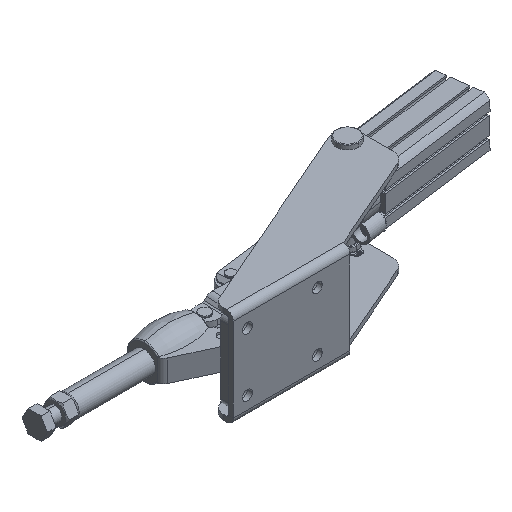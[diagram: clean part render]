
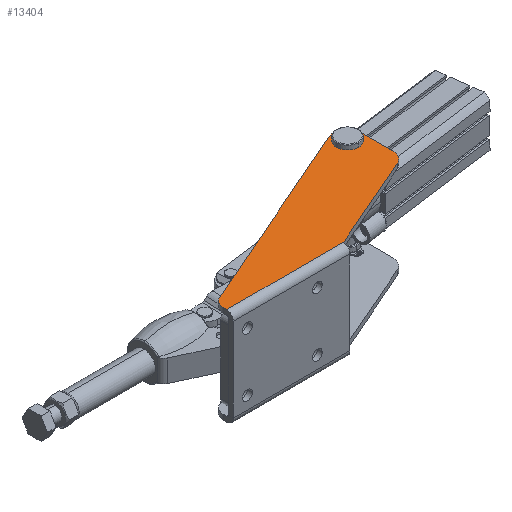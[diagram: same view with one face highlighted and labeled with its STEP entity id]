
A CAD part, isometric view. The second image highlights one B-rep face of the part: STEP entity #13404.
In plain terms, the highlighted planar face has unit normal (0, 0, 1) as drawn and (1, 0, 0) by its records, which use the part's own axes.
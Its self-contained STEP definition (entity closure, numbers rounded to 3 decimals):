
#1003 = VERTEX_POINT ( 'NONE', #14468 ) ;
#1046 = DIRECTION ( 'NONE',  ( 1., 0., 0. ) ) ;
#1337 = ORIENTED_EDGE ( 'NONE', *, *, #2311, .T. ) ;
#1351 = VECTOR ( 'NONE', #19124, 1000. ) ;
#1422 = VERTEX_POINT ( 'NONE', #36659 ) ;
#1479 = AXIS2_PLACEMENT_3D ( 'NONE', #17172, #2650, #23031 ) ;
#1649 = EDGE_CURVE ( 'NONE', #1422, #1003, #29986, .T. ) ;
#2311 = EDGE_CURVE ( 'NONE', #7331, #7093, #17248, .T. ) ;
#2650 = DIRECTION ( 'NONE',  ( -1., 0., 0. ) ) ;
#2667 = AXIS2_PLACEMENT_3D ( 'NONE', #18503, #1046, #21450 ) ;
#2842 = EDGE_CURVE ( 'NONE', #32389, #1422, #35433, .T. ) ;
#2941 = EDGE_LOOP ( 'NONE', ( #1337, #29685 ) ) ;
#3912 = ORIENTED_EDGE ( 'NONE', *, *, #7779, .T. ) ;
#3957 = ORIENTED_EDGE ( 'NONE', *, *, #23930, .F. ) ;
#4003 = ORIENTED_EDGE ( 'NONE', *, *, #35117, .T. ) ;
#5040 = CARTESIAN_POINT ( 'NONE',  ( 41.75, 75.056, -189.158 ) ) ;
#5607 = EDGE_CURVE ( 'NONE', #1003, #13996, #17918, .T. ) ;
#5687 = DIRECTION ( 'NONE',  ( -1., 0., 0. ) ) ;
#6043 = AXIS2_PLACEMENT_3D ( 'NONE', #23180, #5687, #26075 ) ;
#6287 = EDGE_CURVE ( 'NONE', #28627, #17387, #26528, .T. ) ;
#6904 = CARTESIAN_POINT ( 'NONE',  ( 41.75, 37.065, -181.95 ) ) ;
#7084 = VERTEX_POINT ( 'NONE', #10133 ) ;
#7093 = VERTEX_POINT ( 'NONE', #19063 ) ;
#7331 = VERTEX_POINT ( 'NONE', #8475 ) ;
#7779 = EDGE_CURVE ( 'NONE', #17387, #26273, #28773, .T. ) ;
#8475 = CARTESIAN_POINT ( 'NONE',  ( 41.75, 75.056, -169.158 ) ) ;
#9000 = ORIENTED_EDGE ( 'NONE', *, *, #29299, .F. ) ;
#9850 = DIRECTION ( 'NONE',  ( 0., 0.399, -0.917 ) ) ;
#10130 = VECTOR ( 'NONE', #25863, 1000. ) ;
#10132 = ORIENTED_EDGE ( 'NONE', *, *, #35248, .T. ) ;
#10133 = CARTESIAN_POINT ( 'NONE',  ( 41.75, 4.431, 0. ) ) ;
#10261 = FACE_OUTER_BOUND ( 'NONE', #17217, .T. ) ;
#10580 = EDGE_CURVE ( 'NONE', #7093, #7331, #11351, .T. ) ;
#10971 = CARTESIAN_POINT ( 'NONE',  ( 41.75, 13.599, -6.007 ) ) ;
#11091 = CARTESIAN_POINT ( 'NONE',  ( 41.75, 75.056, -177.158 ) ) ;
#11275 = AXIS2_PLACEMENT_3D ( 'NONE', #14749, #35118, #17708 ) ;
#11321 = DIRECTION ( 'NONE',  ( -1., 0., 0. ) ) ;
#11351 = CIRCLE ( 'NONE', #6043, 8. ) ;
#12152 = DIRECTION ( 'NONE',  ( 1., 0., 0. ) ) ;
#13404 = ADVANCED_FACE ( 'NONE', ( #33487, #10261 ), #20083, .F. ) ;
#13531 = CARTESIAN_POINT ( 'NONE',  ( 41.75, 1.5, -103. ) ) ;
#13996 = VERTEX_POINT ( 'NONE', #5040 ) ;
#14015 = DIRECTION ( 'NONE',  ( 0., 0., 1. ) ) ;
#14072 = LINE ( 'NONE', #25946, #21826 ) ;
#14181 = ORIENTED_EDGE ( 'NONE', *, *, #6287, .T. ) ;
#14212 = VECTOR ( 'NONE', #28391, 1000. ) ;
#14468 = CARTESIAN_POINT ( 'NONE',  ( 41.75, 48.067, -189.158 ) ) ;
#14749 = CARTESIAN_POINT ( 'NONE',  ( 41.75, 48.067, -177.158 ) ) ;
#15788 = CARTESIAN_POINT ( 'NONE',  ( 41.75, 13.599, -6.007 ) ) ;
#16009 = ORIENTED_EDGE ( 'NONE', *, *, #1649, .T. ) ;
#17172 = CARTESIAN_POINT ( 'NONE',  ( 41.75, -80.591, -103. ) ) ;
#17217 = EDGE_LOOP ( 'NONE', ( #4003, #14181, #3912, #3957, #9000, #10132, #18876, #16009, #23602 ) ) ;
#17248 = CIRCLE ( 'NONE', #28076, 8. ) ;
#17387 = VERTEX_POINT ( 'NONE', #21115 ) ;
#17708 = DIRECTION ( 'NONE',  ( 0., -1., 0. ) ) ;
#17852 = AXIS2_PLACEMENT_3D ( 'NONE', #28725, #11321, #31634 ) ;
#17918 = LINE ( 'NONE', #19999, #10130 ) ;
#17924 = VERTEX_POINT ( 'NONE', #32985 ) ;
#17953 = AXIS2_PLACEMENT_3D ( 'NONE', #29554, #12152, #32475 ) ;
#18503 = CARTESIAN_POINT ( 'NONE',  ( 41.75, 75.056, -177.158 ) ) ;
#18876 = ORIENTED_EDGE ( 'NONE', *, *, #2842, .T. ) ;
#19063 = CARTESIAN_POINT ( 'NONE',  ( 41.75, 75.056, -185.158 ) ) ;
#19124 = DIRECTION ( 'NONE',  ( 0., 0., -1. ) ) ;
#19371 = CARTESIAN_POINT ( 'NONE',  ( 41.75, 87.056, -177.158 ) ) ;
#19940 = VECTOR ( 'NONE', #9850, 1000. ) ;
#19999 = CARTESIAN_POINT ( 'NONE',  ( 41.75, -80.591, -189.158 ) ) ;
#20083 = PLANE ( 'NONE',  #1479 ) ;
#21115 = CARTESIAN_POINT ( 'NONE',  ( 41.75, 86.058, -172.366 ) ) ;
#21450 = DIRECTION ( 'NONE',  ( 0., 1., 0. ) ) ;
#21826 = VECTOR ( 'NONE', #29100, 1000. ) ;
#23031 = DIRECTION ( 'NONE',  ( 0., 0., 1. ) ) ;
#23180 = CARTESIAN_POINT ( 'NONE',  ( 41.75, 75.056, -177.158 ) ) ;
#23602 = ORIENTED_EDGE ( 'NONE', *, *, #5607, .T. ) ;
#23930 = EDGE_CURVE ( 'NONE', #7084, #26273, #32078, .T. ) ;
#25863 = DIRECTION ( 'NONE',  ( 0., 1., 0. ) ) ;
#25946 = CARTESIAN_POINT ( 'NONE',  ( 41.75, -84.819, 0. ) ) ;
#26075 = DIRECTION ( 'NONE',  ( 0., 0., 1. ) ) ;
#26273 = VERTEX_POINT ( 'NONE', #15788 ) ;
#26528 = CIRCLE ( 'NONE', #17953, 12. ) ;
#28076 = AXIS2_PLACEMENT_3D ( 'NONE', #11091, #31411, #14015 ) ;
#28391 = DIRECTION ( 'NONE',  ( 0., -0.399, 0.917 ) ) ;
#28627 = VERTEX_POINT ( 'NONE', #19371 ) ;
#28725 = CARTESIAN_POINT ( 'NONE',  ( 41.75, 4.431, -10. ) ) ;
#28773 = LINE ( 'NONE', #10971, #14212 ) ;
#29100 = DIRECTION ( 'NONE',  ( 0., 1., 0. ) ) ;
#29299 = EDGE_CURVE ( 'NONE', #17924, #7084, #14072, .T. ) ;
#29554 = CARTESIAN_POINT ( 'NONE',  ( 41.75, 75.056, -177.158 ) ) ;
#29685 = ORIENTED_EDGE ( 'NONE', *, *, #10580, .T. ) ;
#29986 = CIRCLE ( 'NONE', #11275, 12. ) ;
#31385 = LINE ( 'NONE', #13531, #1351 ) ;
#31411 = DIRECTION ( 'NONE',  ( -1., 0., 0. ) ) ;
#31634 = DIRECTION ( 'NONE',  ( 0., 0., 1. ) ) ;
#32078 = CIRCLE ( 'NONE', #17852, 10. ) ;
#32389 = VERTEX_POINT ( 'NONE', #34466 ) ;
#32475 = DIRECTION ( 'NONE',  ( 0., 1., 0. ) ) ;
#32985 = CARTESIAN_POINT ( 'NONE',  ( 41.75, 1.5, 0. ) ) ;
#33487 = FACE_BOUND ( 'NONE', #2941, .T. ) ;
#34466 = CARTESIAN_POINT ( 'NONE',  ( 41.75, 1.5, -100.295 ) ) ;
#35078 = CIRCLE ( 'NONE', #2667, 12. ) ;
#35117 = EDGE_CURVE ( 'NONE', #13996, #28627, #35078, .T. ) ;
#35118 = DIRECTION ( 'NONE',  ( 1., 0., 0. ) ) ;
#35248 = EDGE_CURVE ( 'NONE', #17924, #32389, #31385, .T. ) ;
#35433 = LINE ( 'NONE', #6904, #19940 ) ;
#36659 = CARTESIAN_POINT ( 'NONE',  ( 41.75, 37.065, -181.95 ) ) ;
